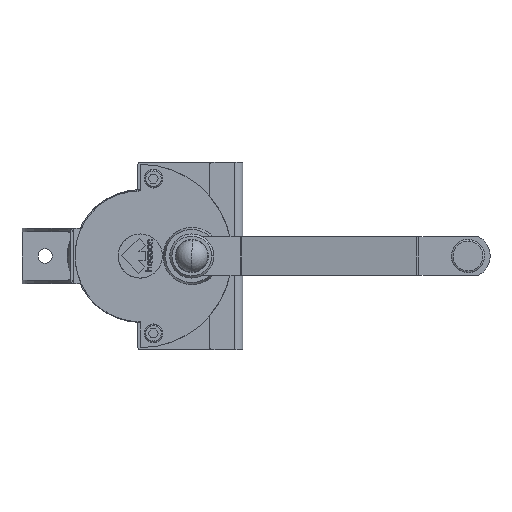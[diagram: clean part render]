
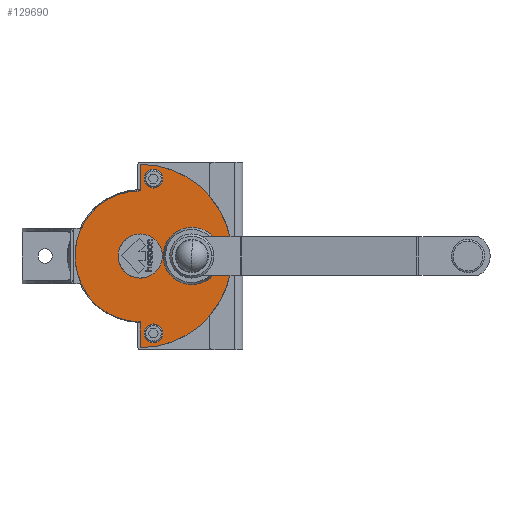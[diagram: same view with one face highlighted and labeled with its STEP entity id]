
A CAD part, front view. The second image highlights one B-rep face of the part: STEP entity #129690.
In plain terms, the highlighted planar face has unit normal (0, -1, 0) as drawn and (0, 0, 1) by its records, which use the part's own axes.
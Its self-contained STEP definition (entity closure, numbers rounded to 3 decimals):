
#22780=CARTESIAN_POINT('',(110.464,-101.433,59.)
);
#22790=VERTEX_POINT('',#22780);
#22820=CARTESIAN_POINT('',(51.464,-101.433,
59.));
#22830=DIRECTION('',(0.,0.,-1.));
#22840=DIRECTION('',(-1.,0.,0.));
#22850=AXIS2_PLACEMENT_3D('',#22820,#22830,#22840);
#22860=CIRCLE('',#22850,59.);
#22870=CARTESIAN_POINT('',(18.481,-52.514,
59.));
#22880=VERTEX_POINT('',#22870);
#22890=EDGE_CURVE('',#22880,#22790,#22860,.T.);
#31350=CARTESIAN_POINT('',(112.964,-113.433,59.)
);
#31360=VERTEX_POINT('',#31350);
#31520=CARTESIAN_POINT('',(129.964,-113.433,59.)
);
#31530=VERTEX_POINT('',#31520);
#31560=CARTESIAN_POINT('',(121.464,-113.433,59.)
);
#31570=DIRECTION('',(0.,0.,1.));
#31580=DIRECTION('',(1.,0.,0.));
#31590=AXIS2_PLACEMENT_3D('',#31560,#31570,#31580);
#31600=CIRCLE('',#31590,8.5);
#31610=EDGE_CURVE('',#31360,#31530,#31600,.T.);
#32100=CARTESIAN_POINT('',(51.464,-122.183,
59.));
#32110=VERTEX_POINT('',#32100);
#32270=CARTESIAN_POINT('',(51.464,-174.183,
59.));
#32280=VERTEX_POINT('',#32270);
#32310=CARTESIAN_POINT('',(51.464,-148.183,
59.));
#32320=DIRECTION('',(0.,0.,1.));
#32330=DIRECTION('',(0.,-1.,0.));
#32340=AXIS2_PLACEMENT_3D('',#32310,#32320,#32330);
#32350=CIRCLE('',#32340,26.);
#32360=EDGE_CURVE('',#32110,#32280,#32350,.T.);
#32820=CARTESIAN_POINT('',(-27.036,-113.433,
59.));
#32830=VERTEX_POINT('',#32820);
#32990=CARTESIAN_POINT('',(-10.036,-113.433,
59.));
#33000=VERTEX_POINT('',#32990);
#33030=CARTESIAN_POINT('',(-18.536,-113.433,
59.));
#33040=DIRECTION('',(0.,0.,-1.));
#33050=DIRECTION('',(-1.,0.,0.));
#33060=AXIS2_PLACEMENT_3D('',#33030,#33040,#33050);
#33070=CIRCLE('',#33060,8.5);
#33080=EDGE_CURVE('',#33000,#32830,#33070,.T.);
#33550=CARTESIAN_POINT('',(-31.536,-101.433,
59.));
#33560=VERTEX_POINT('',#33550);
#33590=CARTESIAN_POINT('',(51.464,-101.433,
59.));
#33600=DIRECTION('',(0.,0.,-1.));
#33610=DIRECTION('',(-1.,0.,0.));
#33620=AXIS2_PLACEMENT_3D('',#33590,#33600,#33610);
#33630=CIRCLE('',#33620,83.);
#33640=CARTESIAN_POINT('',(134.464,-101.433,59.)
);
#33650=VERTEX_POINT('',#33640);
#33660=EDGE_CURVE('',#33650,#33560,#33630,.T.);
#34000=CARTESIAN_POINT('',(0.,-101.433,59.));
#34010=DIRECTION('',(-1.,0.,0.));
#34020=VECTOR('',#34010,1.);
#34030=LINE('',#34000,#34020);
#34040=EDGE_CURVE('',#33650,#22790,#34030,.T.);
#99060=CARTESIAN_POINT('',(33.974,-111.133,
59.));
#99070=VERTEX_POINT('',#99060);
#99100=CARTESIAN_POINT('',(51.464,-101.433,
59.));
#99110=DIRECTION('',(0.,0.,-1.));
#99120=DIRECTION('',(0.875,0.485,0.));
#99130=AXIS2_PLACEMENT_3D('',#99100,#99110,#99120);
#99140=CIRCLE('',#99130,20.);
#99150=CARTESIAN_POINT('',(31.464,-101.433,
59.));
#99160=VERTEX_POINT('',#99150);
#99170=EDGE_CURVE('',#99070,#99160,#99140,.T.);
#99190=CARTESIAN_POINT('',(68.955,-91.734,
59.));
#99200=VERTEX_POINT('',#99190);
#99210=EDGE_CURVE('',#99160,#99200,#99140,.T.);
#118630=CARTESIAN_POINT('',(-8.036,-101.433,
59.));
#118640=VERTEX_POINT('',#118630);
#118670=EDGE_CURVE('',#118640,#33560,#34030,.T.);
#128160=CARTESIAN_POINT('',(-20.059,-13.973,
59.));
#128170=DIRECTION('',(-0.707,0.707,0.));
#128180=VECTOR('',#128170,1.);
#128190=LINE('',#128160,#128180);
#128200=CARTESIAN_POINT('',(18.121,-52.154,
59.));
#128210=VERTEX_POINT('',#128200);
#128220=EDGE_CURVE('',#22880,#128210,#128190,.T.);
#129290=CARTESIAN_POINT('',(-7.786,-101.433,
59.));
#129300=DIRECTION('',(0.,0.,1.));
#129310=DIRECTION('',(-1.,0.,0.));
#129320=AXIS2_PLACEMENT_3D('',#129290,#129300,#129310);
#129330=PLANE('',#129320);
#129340=EDGE_CURVE('',#32830,#33000,#33070,.T.);
#129350=ORIENTED_EDGE('',*,*,#129340,.T.);
#129360=ORIENTED_EDGE('',*,*,#33080,.T.);
#129370=EDGE_LOOP('',(#129360,#129350));
#129380=FACE_BOUND('',#129370,.T.);
#129390=EDGE_CURVE('',#32280,#32110,#32350,.T.);
#129400=ORIENTED_EDGE('',*,*,#129390,.F.);
#129410=ORIENTED_EDGE('',*,*,#32360,.F.);
#129420=EDGE_LOOP('',(#129410,#129400));
#129430=FACE_BOUND('',#129420,.T.);
#129440=EDGE_CURVE('',#99200,#99070,#99140,.T.);
#129450=ORIENTED_EDGE('',*,*,#129440,.T.);
#129460=ORIENTED_EDGE('',*,*,#99210,.T.);
#129470=ORIENTED_EDGE('',*,*,#99170,.T.);
#129480=EDGE_LOOP('',(#129470,#129460,#129450));
#129490=FACE_BOUND('',#129480,.T.);
#129500=EDGE_CURVE('',#31530,#31360,#31600,.T.);
#129510=ORIENTED_EDGE('',*,*,#129500,.F.);
#129520=ORIENTED_EDGE('',*,*,#31610,.F.);
#129530=EDGE_LOOP('',(#129520,#129510));
#129540=FACE_BOUND('',#129530,.T.);
#129550=CARTESIAN_POINT('',(51.464,-101.433,
59.));
#129560=DIRECTION('',(0.,0.,-1.));
#129570=DIRECTION('',(-1.,0.,0.));
#129580=AXIS2_PLACEMENT_3D('',#129550,#129560,#129570);
#129590=CIRCLE('',#129580,59.5);
#129600=EDGE_CURVE('',#118640,#128210,#129590,.T.);
#129610=ORIENTED_EDGE('',*,*,#129600,.F.);
#129620=ORIENTED_EDGE('',*,*,#128220,.T.);
#129630=ORIENTED_EDGE('',*,*,#22890,.F.);
#129640=ORIENTED_EDGE('',*,*,#34040,.T.);
#129650=ORIENTED_EDGE('',*,*,#33660,.F.);
#129660=ORIENTED_EDGE('',*,*,#118670,.T.);
#129670=EDGE_LOOP('',(#129660,#129650,#129640,#129630,#129620,#129610));
#129680=FACE_OUTER_BOUND('',#129670,.T.);
#129690=ADVANCED_FACE('',(#129380,#129430,#129490,#129540,#129680),
#129330,.T.);
